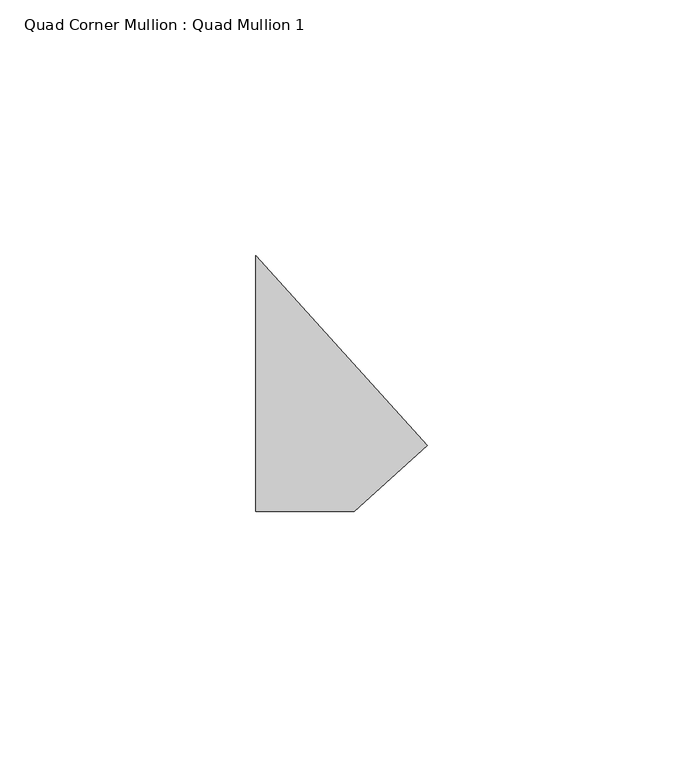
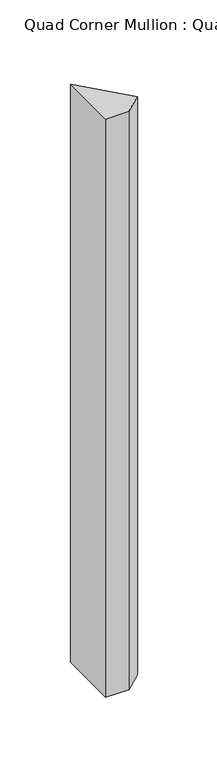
"""IFC4 building model written with IfcOpenShell, lengths in millimetres: member geometry, Quad Corner Mullion : Quad Mullion 1."""

from ifc_helpers import new_model, si_unit, frame, origin, place, context, project, spatial, polyline, outline, extrude, source, transform, mapped, element, save


def quad_corner_mullion_quad_mullion_1_fc43335c(model_context):
    return source(origin(), model_context, "Body", "SweptSolid", [
        extrude(outline(polyline([(23.8599294, -12.1572413), (9.5966009, -25.0), (-9.5966009, -25.0), (-9.5966009, 25.0), (23.8599294, -12.1572413)])), frame((0.0, 0.0, -500.0), z_axis=(0.0, 0.0, 1.0), x_axis=(1.0, 0.0, 0.0)), (0.0, 0.0, 1.0), 500.0),
    ])


if __name__ == "__main__":
    model = new_model("IFC4")
    model_context = context("Model", 3, world=origin())
    ifc_project = project(units=[si_unit("LENGTHUNIT", "METRE", prefix="MILLI")], contexts=[model_context])
    site = spatial("IfcSite", under=ifc_project)
    building = spatial("IfcBuilding", under=site)
    placement = place(None, origin())
    quad_corner_mullion_quad_mullion_1_shape = quad_corner_mullion_quad_mullion_1_fc43335c(model_context)
    element("IfcMember", 1, ObjectType="Quad Corner Mullion : Quad Mullion 1", at=placement, inside=building, context=model_context, shape_type="MappedRepresentation", body=[
        mapped(quad_corner_mullion_quad_mullion_1_shape, transform((0.0, 0.0, 0.0), x_axis=(1.0, 0.0, 0.0), y_axis=(0.0, 1.0, 0.0), z_axis=(0.0, 0.0, 1.0))),
    ])
    save(model, "model.ifc")
